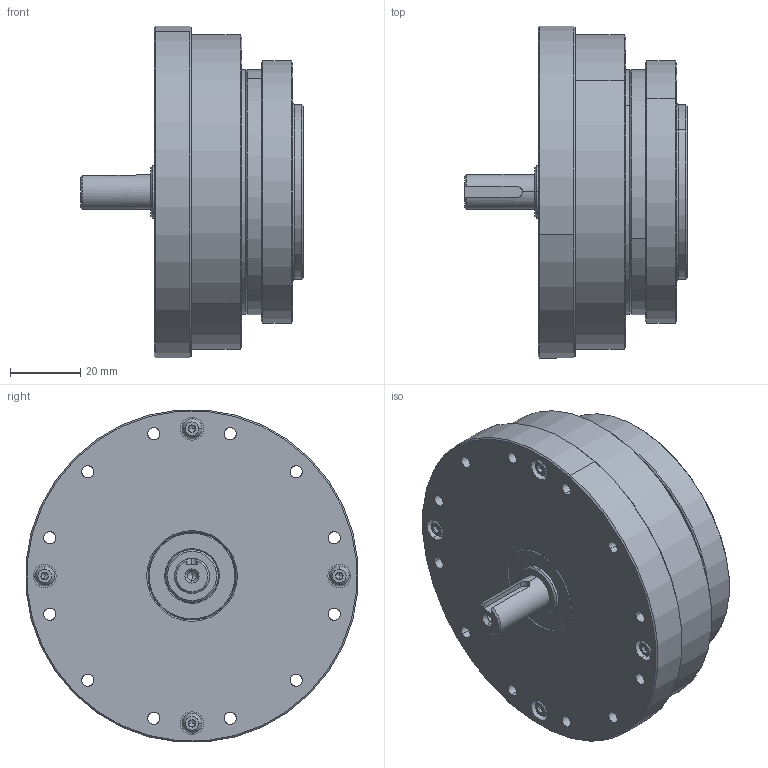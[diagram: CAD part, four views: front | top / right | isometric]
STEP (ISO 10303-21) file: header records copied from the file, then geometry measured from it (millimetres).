
FILE_DESCRIPTION (( 'STEP AP203' ), '1' );
FILE_NAME ('FHG-20-XXX-AJ.STEP', '2021-01-18T03:28:47', ( '' ), ( '' ), 'SwSTEP 2.0', 'SolidWorks 2016', '' );
FILE_SCHEMA (( 'CONFIG_CONTROL_DESIGN' ));
Length unit declared in the file: millimetre
Products named in the file (1): FHG-20-XXX-AJ
Bounding box: 63.5 x 94.64 x 94.64 mm (x, y, z)
Volume: 153915.9 mm3; surface area: 104160.6 mm2
Topology: 17 solids, 17 shells, 985 faces, 2293 edges, 1393 vertices
Faces by surface type: cylinder 426, cone 260, plane 253, torus 40, bspline 6
Entity records: 28534 total; most frequent: DIRECTION 5349, CARTESIAN_POINT 5032, ORIENTED_EDGE 4466, EDGE_CURVE 2233, AXIS2_PLACEMENT_3D 2150, VERTEX_POINT 1393, EDGE_LOOP 1278, CIRCLE 1170
